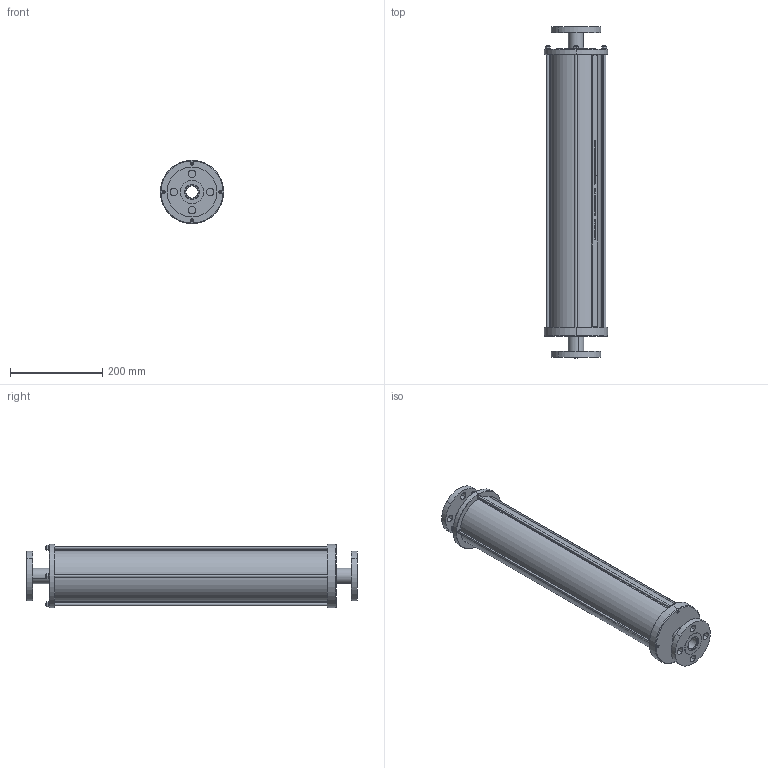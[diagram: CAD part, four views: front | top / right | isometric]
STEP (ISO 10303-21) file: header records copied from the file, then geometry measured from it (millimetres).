
FILE_DESCRIPTION (( 'STEP AP214' ), '1' );
FILE_NAME ('4.0LTR-C-44-34.STEP', '2025-11-05T15:53:49', ( '' ), ( '' ), 'SwSTEP 2.0', 'SolidWorks 2024', '' );
FILE_SCHEMA (( 'AUTOMOTIVE_DESIGN' ));
Length unit declared in the file: millimetre
Products named in the file (1): 4.0LTR-C-44-34
Bounding box: 138 x 721 x 138 mm (x, y, z)
Volume: 1741368.9 mm3; surface area: 627729.5 mm2
Topology: 20 solids, 20 shells, 1522 faces, 3954 edges, 2552 vertices
Faces by surface type: cylinder 540, plane 463, bspline 343, cone 88, sphere 72, torus 16
Entity records: 108936 total; most frequent: CARTESIAN_POINT 59284, ORIENTED_EDGE 7908, DIRECTION 5292, EDGE_CURVE 3954, VERTEX_POINT 2552, VECTOR 1832, LINE 1832, AXIS2_PLACEMENT_3D 1730
